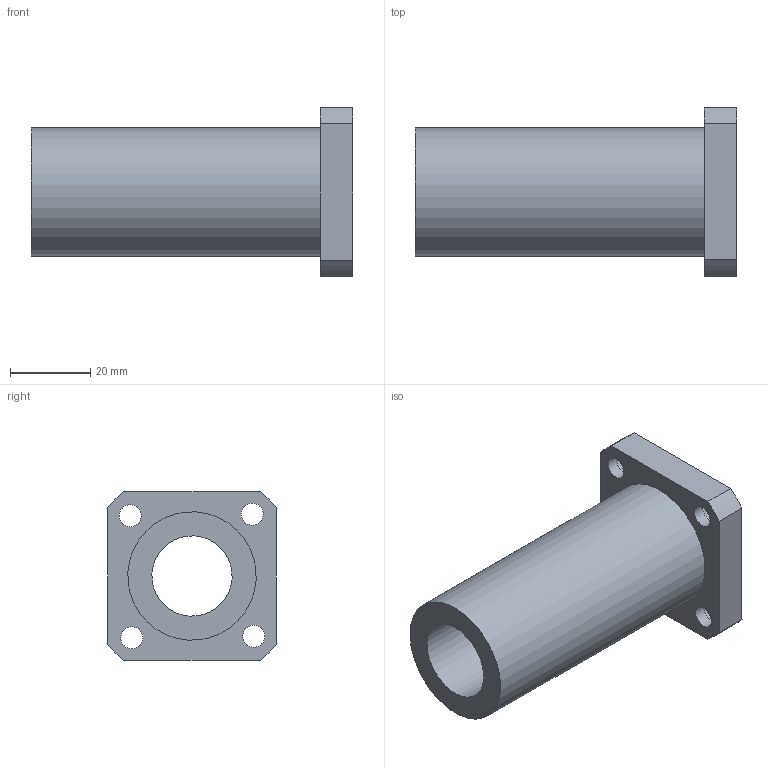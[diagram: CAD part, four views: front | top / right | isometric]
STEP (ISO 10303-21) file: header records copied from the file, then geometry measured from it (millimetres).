
FILE_DESCRIPTION(/* description */ (''),/* implementation_level */ '2;1');
FILE_NAME(/* name */ 'LMK20LUU',/* time_stamp */ '2019-07-09T15:48:34+02:00',/* author */ ('VĂ©gh MĂˇtĂ©'),/* organization */ ('Bearing Kft'),/* preprocessor_version */ 'ST-DEVELOPER v16.7',/* originating_system */ 'DEX',/* authorisation */ $);
FILE_SCHEMA (('AUTOMOTIVE_DESIGN {1 0 10303 214 3 1 1}'));
Length unit declared in the file: millimetre
Products named in the file (1): LMK20LUU
Bounding box: 80 x 42 x 42 mm (x, y, z)
Volume: 45067.4 mm3; surface area: 16980.2 mm2
Topology: 1 solids, 1 shells, 331 faces, 831 edges, 554 vertices
Faces by surface type: plane 256, bspline 59, cylinder 16
Full cylindrical faces by diameter (mm): 5.5 x4, 9 x4, 20 x1, 32 x1
Entity records: 12684 total; most frequent: CARTESIAN_POINT 5099, ORIENTED_EDGE 1636, DIRECTION 1278, EDGE_CURVE 818, LINE 668, VECTOR 668, VERTEX_POINT 554, EDGE_LOOP 406
